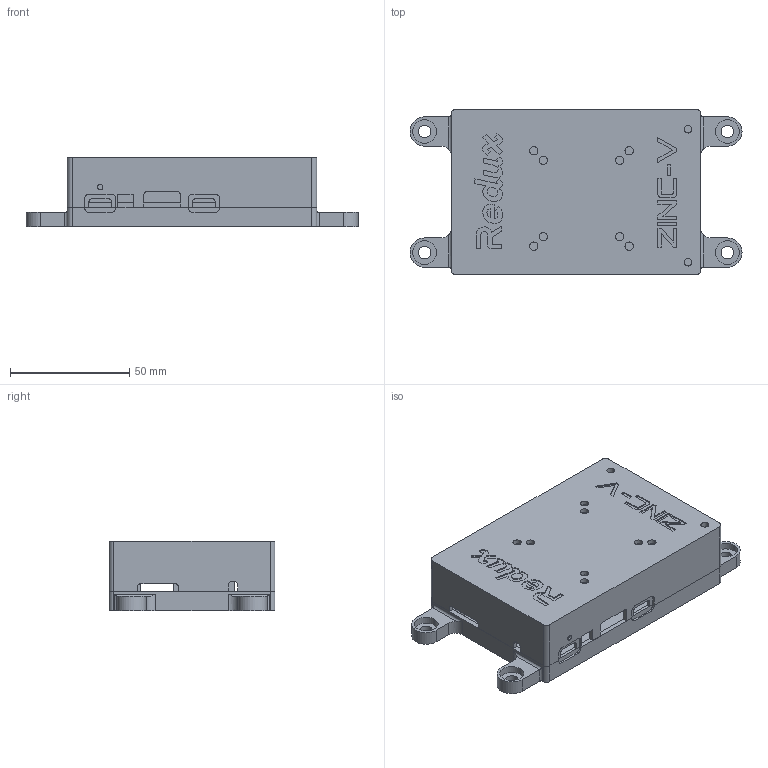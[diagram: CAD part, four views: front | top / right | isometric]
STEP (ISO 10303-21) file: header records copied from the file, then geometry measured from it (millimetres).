
FILE_DESCRIPTION(/* description */ ('STEP AP242','CAx-IF Rec.Pracs.---Representation and Presentation of Product Manufacturing Information (PMI)---4.0---2014-10-13','CAx-IF Rec.Pracs.---3D Tessellated Geometry---0.4---2014-09-14','2;1'),/* implementation_level */ '2;1');
FILE_NAME(/* name */ 'ZINCVOPICASE',/* time_stamp */ '2024-09-15T14:15:26Z');
FILE_SCHEMA (('AP242_MANAGED_MODEL_BASED_3D_ENGINEERING_MIM_LF { 1 0 10303 442 1 1 4 }'));
Length unit declared in the file: metre
Products named in the file (2): LockingOpi5-Base; LockingOpi5-Lid
Bounding box: 139.3 x 69.5 x 29.2 mm (x, y, z)
Volume: 52049.9 mm3; surface area: 50332.7 mm2
Topology: 2 solids, 2 shells, 513 faces, 1429 edges, 950 vertices
Faces by surface type: plane 390, cylinder 115, cone 4, bspline 4
Entity records: 16485 total; most frequent: CARTESIAN_POINT 3010, ORIENTED_EDGE 2858, DIRECTION 2657, EDGE_CURVE 1429, LINE 1183, VECTOR 1183, VERTEX_POINT 950, AXIS2_PLACEMENT_3D 737
